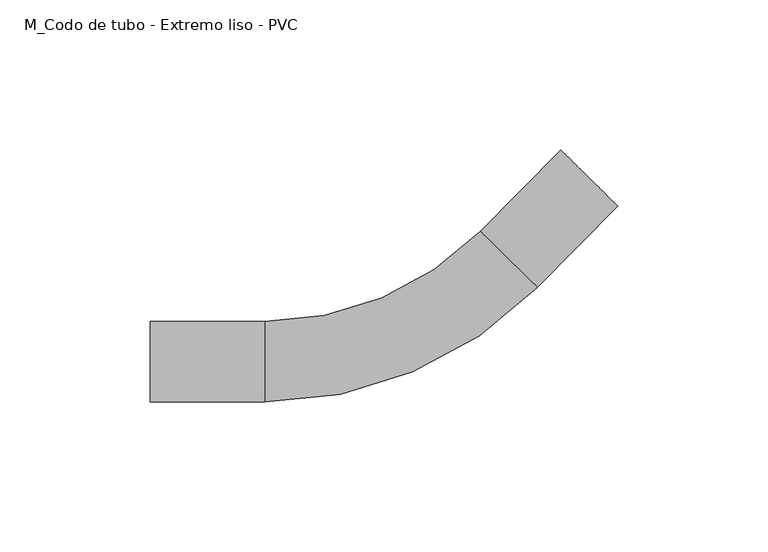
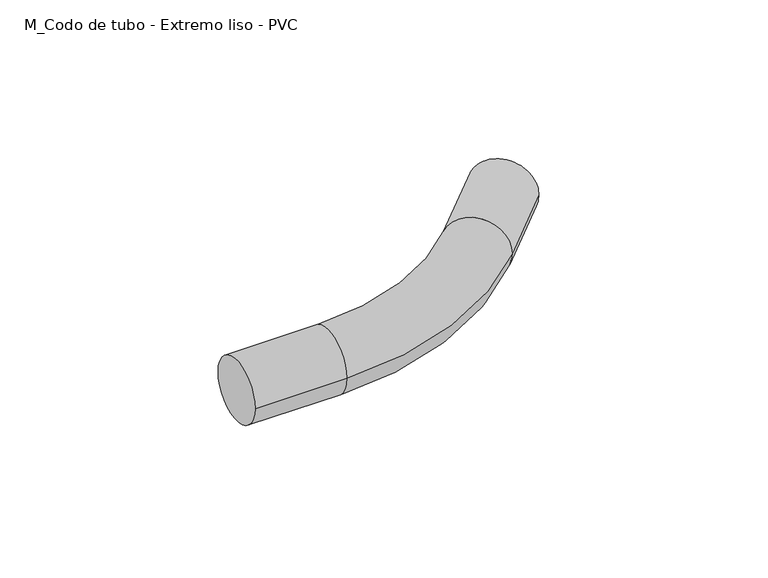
"""IFC4 building model written with IfcOpenShell, lengths in millimetres: cable carrier fitting geometry, M_Codo de tubo - Extremo liso - PVC : CODO ILUMINACION."""

from ifc_helpers import new_model, si_unit, point, frame, origin, place, context, project, spatial, circle_curve, ellipse_curve, trimmed, source, transform, mapped, element, save
from ifc_brep_helpers import plane_surface, cylinder_surface, revolved_surface, advanced_brep


def m_codo_de_tubo_extremo_liso_pvc_1309d5ab(model_context):
    return source(origin(), model_context, "Body", "AdvancedBrep", [
        advanced_brep(
        [(-85.9068797, -13.335, 0.0), (-85.9068797, 13.335, 0.0), (-47.8068797, -13.335, 0.0), (-47.8068797, 13.335, 0.0), (24.0766578, 43.4008585, 0.0), (43.064762, 24.6727834, 0.0), (69.8191551, 51.7986466, 0.0), (50.8310508, 70.5267217, 0.0)],
        [
            (0, 1, circle_curve(frame((-85.9068797, 0.0, 0.0), z_axis=(-1.0, 0.0, 0.0), x_axis=(0.0, 1.0, 0.0)), 13.335)),
            (1, 0, circle_curve(frame((-85.9068797, 0.0, 0.0), z_axis=(-1.0, 0.0, 0.0), x_axis=(0.0, 1.0, 0.0)), 13.335)),
            (0, 2),
            (2, 3, circle_curve(frame((-47.8068797, 0.0, 0.0), z_axis=(-1.0, 0.0, 0.0), x_axis=(0.0, 1.0, 0.0)), 13.335)),
            (3, 1),
            (3, 2, circle_curve(frame((-47.8068797, 0.0, 0.0), z_axis=(-1.0, 0.0, 0.0), x_axis=(0.0, 1.0, 0.0)), 13.335)),
            (4, 3, circle_curve(frame((-47.8068797, 114.3, 0.0), z_axis=(0.0, 0.0, -1.0), x_axis=(0.0, -1.0, 0.0)), 100.965)),
            (2, 5, circle_curve(frame((-47.8068797, 114.3, 0.0), z_axis=(0.0, 0.0, 1.0), x_axis=(0.0, -1.0, 0.0)), 127.635)),
            (5, 4, circle_curve(frame((33.5707099, 34.0368209, 0.0), z_axis=(-0.7022150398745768, -0.7119649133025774, 0.0), x_axis=(-0.7119649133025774, 0.7022150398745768, 0.0)), 13.335)),
            (4, 5, circle_curve(frame((33.5707099, 34.0368209, 0.0), z_axis=(-0.7022150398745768, -0.7119649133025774, 0.0), x_axis=(-0.7119649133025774, 0.7022150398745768, 0.0)), 13.335)),
            (6, 7, circle_curve(frame((60.3251029, 61.1626841, 0.0), z_axis=(0.7022150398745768, 0.7119649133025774, 0.0), x_axis=(-0.7119649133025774, 0.7022150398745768, 0.0)), 13.335)),
            (7, 6, circle_curve(frame((60.3251029, 61.1626841, 0.0), z_axis=(0.7022150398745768, 0.7119649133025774, 0.0), x_axis=(-0.7119649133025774, 0.7022150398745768, 0.0)), 13.335)),
            (5, 6),
            (7, 4),
        ],
        [
            plane_surface(frame((-85.9068797, 0.0, 0.0), z_axis=(-1.0, 0.0, 0.0), x_axis=(0.0, 0.0, 1.0))),
            cylinder_surface(frame((-85.9068797, 0.0, 0.0), z_axis=(-1.0, 0.0, 0.0), x_axis=(0.0, 1.0, 0.0)), 13.335),
            revolved_surface(trimmed(ellipse_curve(frame((-47.8068797, 0.0, 0.0), z_axis=(-1.0, 0.0, 0.0), x_axis=(0.0, 1.0, 0.0)), 13.335, 13.335), [point((-47.8068797, -13.335, 0.0))], [point((-47.8068797, 13.335, 0.0))], True, "CARTESIAN"), (-47.8068797, 114.3, 0.0), (0.0, 0.0, 1.0)),
            revolved_surface(trimmed(ellipse_curve(frame((-47.8068797, 0.0, 0.0), z_axis=(-1.0, 0.0, 0.0), x_axis=(0.0, 1.0, 0.0)), 13.335, 13.335), [point((-47.8068797, 13.335, 0.0))], [point((-47.8068797, -13.335, 0.0))], True, "CARTESIAN"), (-47.8068797, 114.3, 0.0), (0.0, 0.0, 1.0)),
            plane_surface(frame((60.3251029, 61.1626841, 0.0), z_axis=(0.7022150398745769, 0.7119649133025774, 0.0), x_axis=(0.0, 0.0, 1.0))),
            cylinder_surface(frame((33.5707099, 34.0368209, 0.0), z_axis=(-0.7022150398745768, -0.7119649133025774, 0.0), x_axis=(-0.7119649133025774, 0.7022150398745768, 0.0)), 13.335),
        ],
        [
            (0, [[1, 2]]),
            (1, [[-1, 3, 4, 5]]),
            (1, [[-2, -5, 6, -3]]),
            (2, [[7, -4, 8, 9]]),
            (3, [[-8, -6, -7, 10]]),
            (4, [[11, 12]]),
            (5, [[-9, 13, -12, 14]]),
            (5, [[-10, -14, -11, -13]]),
        ],
    ),
    ])


if __name__ == "__main__":
    model = new_model("IFC4")
    model_context = context("Model", 3, world=origin())
    ifc_project = project(units=[si_unit("LENGTHUNIT", "METRE", prefix="MILLI")], contexts=[model_context])
    site = spatial("IfcSite", under=ifc_project)
    building = spatial("IfcBuilding", under=site)
    placement = place(None, origin())
    m_codo_de_tubo_extremo_liso_pvc_shape = m_codo_de_tubo_extremo_liso_pvc_1309d5ab(model_context)
    element("IfcCableCarrierFitting", 1, ObjectType="M_Codo de tubo - Extremo liso - PVC : CODO ILUMINACION", at=placement, inside=building, context=model_context, shape_type="MappedRepresentation", body=[
        mapped(m_codo_de_tubo_extremo_liso_pvc_shape, transform((0.0, 0.0, 0.0), x_axis=(1.0, 0.0, 0.0), y_axis=(0.0, 1.0, 0.0), z_axis=(0.0, 0.0, 1.0))),
    ])
    save(model, "model.ifc")
